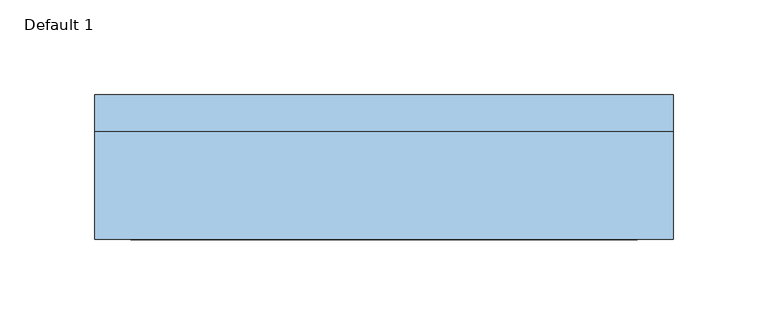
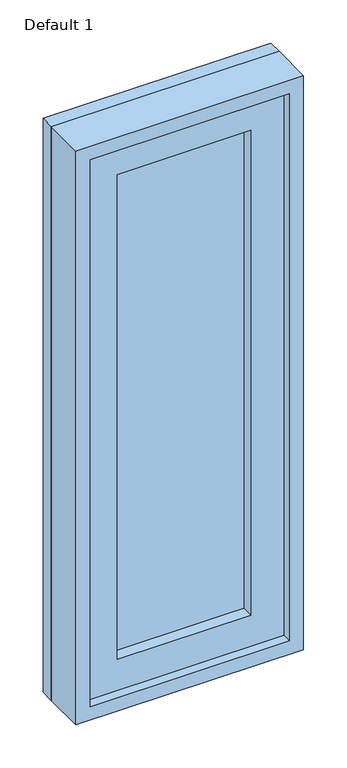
"""IFC4 building model written with IfcOpenShell, lengths in millimetres: window geometry, Planitar-Fixed : Default 1."""

from ifc_helpers import new_model, si_unit, frame, origin, place, context, project, spatial, polyline, outline, extrude, source, transform, mapped, element, save


def default_1_a1776558(model_context):
    return source(origin(), model_context, "Body", "SweptSolid", [
        extrude(outline(polyline([(1708.2, -133.4), (933.4, -133.4), (933.4, 133.4), (1708.2, 133.4), (1708.2, -133.4)]), holes=[polyline([(1664.2, -89.4), (1664.2, 89.4), (977.4, 89.4), (977.4, -89.4), (1664.2, -89.4)])]), frame((0.0, -38.4, 0.0), z_axis=(0.0, 1.0, 0.0), x_axis=(0.0, 0.0, 1.0)), (0.0, 0.0, 1.0), 44.0),
        extrude(outline(polyline([(1727.2, -152.4), (914.4, -152.4), (914.4, 152.4), (1727.2, 152.4), (1727.2, -152.4)]), holes=[polyline([(1708.2, -133.4), (1708.2, 133.4), (933.4, 133.4), (933.4, -133.4), (1708.2, -133.4)])]), frame((0.0, -51.1, 0.0), z_axis=(0.0, 1.0, 0.0), x_axis=(0.0, 0.0, 1.0)), (0.0, 0.0, 1.0), 56.7),
        extrude(outline(polyline([(1727.2, -152.4), (914.4, -152.4), (914.4, 152.4), (1727.2, 152.4), (1727.2, -152.4)]), holes=[polyline([(1695.2, -120.4), (1695.2, 120.4), (946.4, 120.4), (946.4, -120.4), (1695.2, -120.4)])]), frame((0.0, 5.6, 0.0), z_axis=(0.0, 1.0, 0.0), x_axis=(0.0, 0.0, 1.0)), (0.0, 0.0, 1.0), 19.5),
        extrude(outline(polyline([(-89.4, -22.4), (-89.4, -10.4), (89.4, -10.4), (89.4, -22.4), (-89.4, -22.4)])), frame((0.0, 0.0, 977.4), z_axis=(0.0, 0.0, 1.0), x_axis=(1.0, 0.0, 0.0)), (0.0, 0.0, 1.0), 686.8),
    ])


if __name__ == "__main__":
    model = new_model("IFC4")
    model_context = context("Model", 3, world=origin())
    ifc_project = project(units=[si_unit("LENGTHUNIT", "METRE", prefix="MILLI")], contexts=[model_context])
    site = spatial("IfcSite", under=ifc_project)
    building = spatial("IfcBuilding", under=site)
    placement = place(None, origin())
    default_1_shape = default_1_a1776558(model_context)
    element("IfcWindow", 1, ObjectType="Planitar-Fixed : Default 1", at=placement, inside=building, context=model_context, shape_type="MappedRepresentation", body=[
        mapped(default_1_shape, transform((0.0, 0.0, 0.0), x_axis=(1.0, 0.0, 0.0), y_axis=(0.0, 1.0, 0.0), z_axis=(0.0, 0.0, 1.0))),
    ])
    save(model, "model.ifc")
